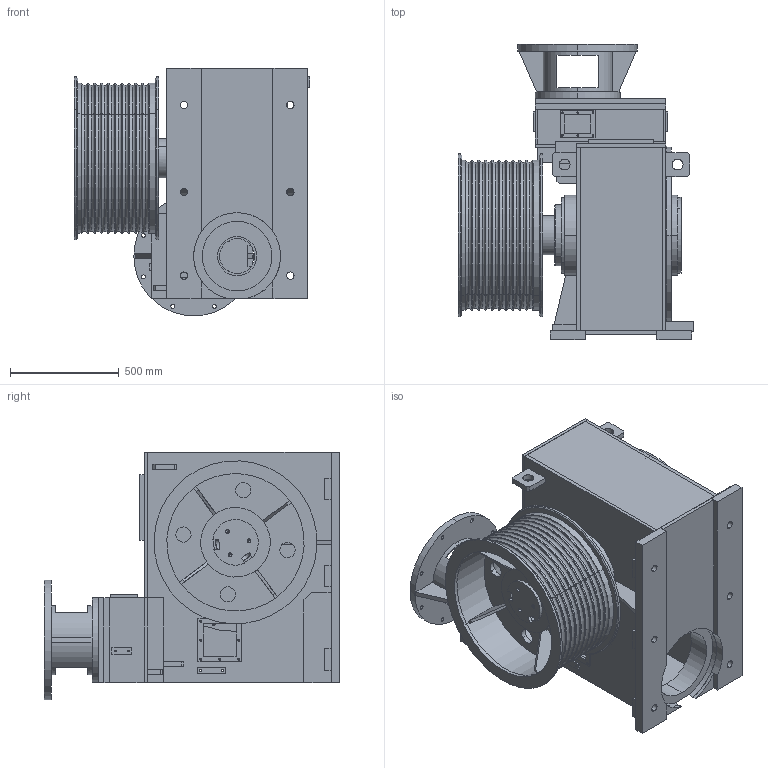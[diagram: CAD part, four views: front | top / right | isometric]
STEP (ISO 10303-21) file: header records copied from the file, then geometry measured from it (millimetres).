
FILE_DESCRIPTION (( 'STEP AP214' ), '1' );
FILE_NAME ('Assembly.STEP', '2009-11-30T08:54:57', ( 'notebook' ), ( 'midasit' ), 'SwSTEP 2.0', 'SolidWorks 2008', '' );
FILE_SCHEMA (( 'AUTOMOTIVE_DESIGN' ));
Length unit declared in the file: millimetre
Products named in the file (11): 1_cable drum_-<陛奢 鼻鷓>; 21_end plate_-; 13_case housing_-<陛奢 鼻鷓>; 36_bearing_-; 15_bearing cover_-; 14_bearing cover_-; 01_CASE_-<陛奢 鼻鷓>; Assembly; 6_output shaft_-; 8_motor flange_-<陛奢 鼻鷓>; 7_case housing_-<陛奢 鼻鷓>
Assembly tree (11 placements, depth 2):
  Assembly
    13_case housing_-<陛奢 鼻鷓>
    7_case housing_-<陛奢 鼻鷓>
    14_bearing cover_-
    01_CASE_-<陛奢 鼻鷓>
    15_bearing cover_-
    1_cable drum_-<陛奢 鼻鷓>
    21_end plate_-
    36_bearing_-  x2
    6_output shaft_-
    8_motor flange_-<陛奢 鼻鷓>
Bounding box: 1085 x 1360 x 1140 mm (x, y, z)
Volume: 190458757.4 mm3; surface area: 17180867.8 mm2
Topology: 73 solids, 73 shells, 1399 faces, 3371 edges, 2091 vertices
Faces by surface type: cylinder 595, plane 504, cone 193, torus 107
Entity records: 43721 total; most frequent: DIRECTION 7475, CARTESIAN_POINT 6993, ORIENTED_EDGE 6458, EDGE_CURVE 3229, AXIS2_PLACEMENT_3D 2869, VERTEX_POINT 2075, EDGE_LOOP 1832, VECTOR 1737
